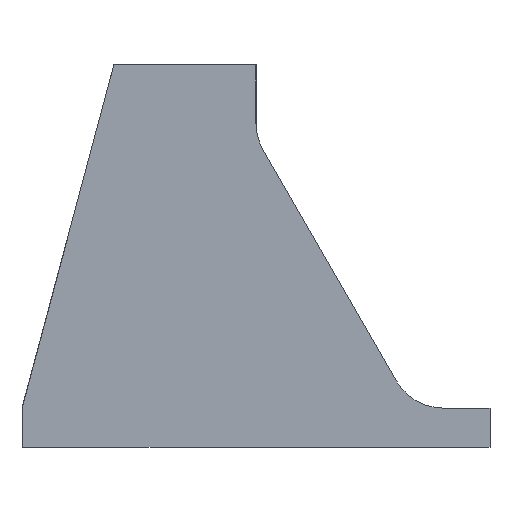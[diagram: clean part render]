
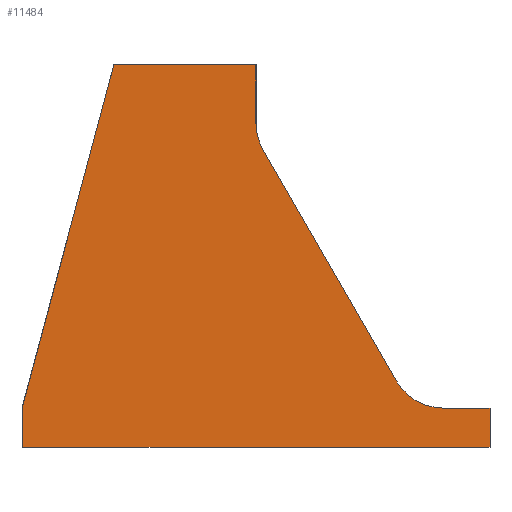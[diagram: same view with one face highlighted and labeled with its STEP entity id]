
A CAD part, left-side view. The second image highlights one B-rep face of the part: STEP entity #11484.
In plain terms, the highlighted planar face has unit normal (-1, 0, 0).
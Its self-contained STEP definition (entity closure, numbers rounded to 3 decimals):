
#1642=DIRECTION('',(0.,1.,0.));
#1643=VECTOR('',#1642,76.2);
#1644=CARTESIAN_POINT('',(-76.2,-87.3,28.575));
#1645=LINE('',#1644,#1643);
#1816=DIRECTION('',(0.,0.259,-0.966));
#1817=VECTOR('',#1816,57.851);
#1818=CARTESIAN_POINT('',(-76.2,-26.073,90.805));
#1819=LINE('',#1818,#1817);
#1820=CARTESIAN_POINT('',(-76.2,-58.09,81.301));
#1821=DIRECTION('',(1.,0.,0.));
#1822=DIRECTION('',(0.,0.866,-0.5));
#1823=AXIS2_PLACEMENT_3D('',#1820,#1821,#1822);
#1825=DIRECTION('',(0.,0.5,0.866));
#1826=VECTOR('',#1825,43.285);
#1827=CARTESIAN_POINT('',(-76.2,-72.034,39.37));
#1828=LINE('',#1827,#1826);
#1829=CARTESIAN_POINT('',(-76.2,-79.733,43.815));
#1830=DIRECTION('',(1.,0.,0.));
#1831=DIRECTION('',(0.,0.,-1.));
#1832=AXIS2_PLACEMENT_3D('',#1829,#1830,#1831);
#1834=DIRECTION('',(0.,1.,0.));
#1835=VECTOR('',#1834,7.567);
#1836=CARTESIAN_POINT('',(-76.2,-87.3,34.925));
#1837=LINE('',#1836,#1835);
#1838=DIRECTION('',(0.,0.,1.));
#1839=VECTOR('',#1838,6.35);
#1840=CARTESIAN_POINT('',(-76.2,-87.3,28.575));
#1841=LINE('',#1840,#1839);
#1854=DIRECTION('',(0.,0.,1.));
#1855=VECTOR('',#1854,6.35);
#1856=CARTESIAN_POINT('',(-76.2,-11.1,28.575));
#1857=LINE('',#1856,#1855);
#2073=DIRECTION('',(0.,-1.,0.));
#2074=VECTOR('',#2073,23.127);
#2075=CARTESIAN_POINT('',(-76.2,-26.073,90.805));
#2076=LINE('',#2075,#2074);
#2093=DIRECTION('',(0.,0.,-1.));
#2094=VECTOR('',#2093,9.504);
#2095=CARTESIAN_POINT('',(-76.2,-49.2,90.805));
#2096=LINE('',#2095,#2094);
#9111=CARTESIAN_POINT('',(-76.2,-11.1,34.925));
#9113=VERTEX_POINT('',#9111);
#9137=CARTESIAN_POINT('',(-76.2,-49.2,90.805));
#9138=CARTESIAN_POINT('',(-76.2,-49.2,81.301));
#9139=VERTEX_POINT('',#9137);
#9140=VERTEX_POINT('',#9138);
#9157=CARTESIAN_POINT('',(-76.2,-11.1,28.575));
#9159=VERTEX_POINT('',#9157);
#9177=CARTESIAN_POINT('',(-76.2,-79.733,34.925));
#9179=VERTEX_POINT('',#9177);
#9235=CARTESIAN_POINT('',(-76.2,-72.034,39.37));
#9236=VERTEX_POINT('',#9235);
#9243=CARTESIAN_POINT('',(-76.2,-26.073,90.805));
#9244=VERTEX_POINT('',#9243);
#9249=CARTESIAN_POINT('',(-76.2,-87.3,28.575));
#9250=VERTEX_POINT('',#9249);
#9256=CARTESIAN_POINT('',(-76.2,-87.3,34.925));
#9257=VERTEX_POINT('',#9256);
#9306=CARTESIAN_POINT('',(-76.2,-50.391,76.856));
#9307=VERTEX_POINT('',#9306);
#11460=CARTESIAN_POINT('',(-76.2,-11.1,34.925));
#11461=DIRECTION('',(1.,0.,0.));
#11462=DIRECTION('',(0.,0.,1.));
#11463=AXIS2_PLACEMENT_3D('',#11460,#11461,#11462);
#11464=PLANE('',#11463);
#11465=ORIENTED_EDGE('',*,*,#11235,.T.);
#11467=ORIENTED_EDGE('',*,*,#11466,.T.);
#11469=ORIENTED_EDGE('',*,*,#11468,.F.);
#11471=ORIENTED_EDGE('',*,*,#11470,.T.);
#11473=ORIENTED_EDGE('',*,*,#11472,.T.);
#11475=ORIENTED_EDGE('',*,*,#11474,.F.);
#11477=ORIENTED_EDGE('',*,*,#11476,.F.);
#11479=ORIENTED_EDGE('',*,*,#11478,.F.);
#11480=ORIENTED_EDGE('',*,*,#11412,.F.);
#11481=ORIENTED_EDGE('',*,*,#11454,.F.);
#11482=EDGE_LOOP('',(#11465,#11467,#11469,#11471,#11473,#11475,#11477,#11479,
#11480,#11481));
#11483=FACE_OUTER_BOUND('',#11482,.F.);
#11484=ADVANCED_FACE('',(#11483),#11464,.F.);
#1824=CIRCLE('',#1823,8.89);
#1833=CIRCLE('',#1832,8.89);
#11235=EDGE_CURVE('',#9250,#9159,#1645,.T.);
#11412=EDGE_CURVE('',#9257,#9179,#1837,.T.);
#11454=EDGE_CURVE('',#9250,#9257,#1841,.T.);
#11466=EDGE_CURVE('',#9159,#9113,#1857,.T.);
#11468=EDGE_CURVE('',#9244,#9113,#1819,.T.);
#11470=EDGE_CURVE('',#9244,#9139,#2076,.T.);
#11472=EDGE_CURVE('',#9139,#9140,#2096,.T.);
#11474=EDGE_CURVE('',#9307,#9140,#1824,.T.);
#11476=EDGE_CURVE('',#9236,#9307,#1828,.T.);
#11478=EDGE_CURVE('',#9179,#9236,#1833,.T.);
